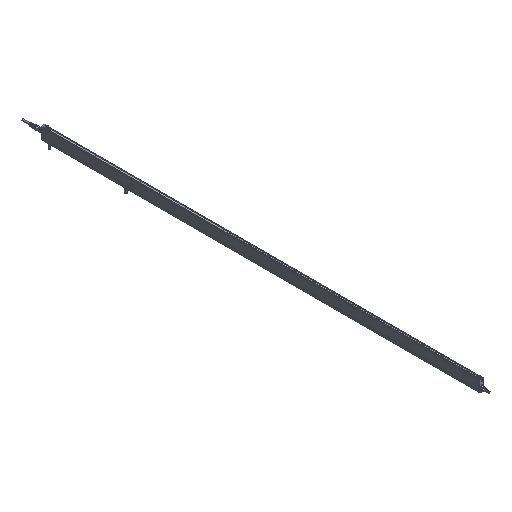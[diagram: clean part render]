
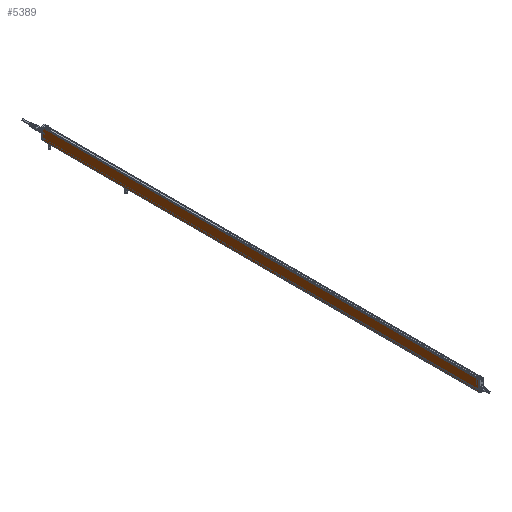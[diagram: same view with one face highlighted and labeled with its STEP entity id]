
A CAD part, isometric view. The second image highlights one B-rep face of the part: STEP entity #5389.
In plain terms, the highlighted planar face has unit normal (-1, 0, 0).
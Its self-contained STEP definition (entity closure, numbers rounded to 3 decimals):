
#672 = LINE ( 'NONE', #1778, #17649 ) ;
#852 = EDGE_CURVE ( 'NONE', #33494, #21731, #672, .T. ) ;
#903 = LINE ( 'NONE', #22306, #5439 ) ;
#966 = CARTESIAN_POINT ( 'NONE',  ( -9., 1135., 0.5 ) ) ;
#1212 = DIRECTION ( 'NONE',  ( -1., 0., 0. ) ) ;
#1276 = CARTESIAN_POINT ( 'NONE',  ( -9., 1135., 28.5 ) ) ;
#1778 = CARTESIAN_POINT ( 'NONE',  ( -9., 1135., 28.5 ) ) ;
#2566 = EDGE_CURVE ( 'NONE', #21731, #10320, #903, .T. ) ;
#4098 = DIRECTION ( 'NONE',  ( 0., -1., 0. ) ) ;
#4382 = ORIENTED_EDGE ( 'NONE', *, *, #14970, .T. ) ;
#4669 = LINE ( 'NONE', #1276, #22027 ) ;
#5389 = ADVANCED_FACE ( 'NONE', ( #11962 ), #21038, .T. ) ;
#5439 = VECTOR ( 'NONE', #30254, 1000. ) ;
#5475 = AXIS2_PLACEMENT_3D ( 'NONE', #22010, #1212, #16706 ) ;
#6096 = LINE ( 'NONE', #966, #16054 ) ;
#6697 = DIRECTION ( 'NONE',  ( 0., 0., -1. ) ) ;
#8186 = EDGE_CURVE ( 'NONE', #33494, #24548, #4669, .T. ) ;
#10320 = VERTEX_POINT ( 'NONE', #15864 ) ;
#11962 = FACE_OUTER_BOUND ( 'NONE', #30794, .T. ) ;
#13362 = ORIENTED_EDGE ( 'NONE', *, *, #2566, .F. ) ;
#14970 = EDGE_CURVE ( 'NONE', #24548, #10320, #6096, .T. ) ;
#15864 = CARTESIAN_POINT ( 'NONE',  ( -9., 0., 0.5 ) ) ;
#16054 = VECTOR ( 'NONE', #19341, 1000. ) ;
#16706 = DIRECTION ( 'NONE',  ( 0., -1., 0. ) ) ;
#17649 = VECTOR ( 'NONE', #4098, 1000. ) ;
#19341 = DIRECTION ( 'NONE',  ( 0., -1., 0. ) ) ;
#21038 = PLANE ( 'NONE',  #5475 ) ;
#21731 = VERTEX_POINT ( 'NONE', #33390 ) ;
#22010 = CARTESIAN_POINT ( 'NONE',  ( -9., 1135., 28.5 ) ) ;
#22027 = VECTOR ( 'NONE', #6697, 1000. ) ;
#22306 = CARTESIAN_POINT ( 'NONE',  ( -9., 0., 28.5 ) ) ;
#22799 = CARTESIAN_POINT ( 'NONE',  ( -9., 1135., 28.5 ) ) ;
#24548 = VERTEX_POINT ( 'NONE', #27392 ) ;
#27392 = CARTESIAN_POINT ( 'NONE',  ( -9., 1135., 0.5 ) ) ;
#30254 = DIRECTION ( 'NONE',  ( 0., 0., -1. ) ) ;
#30794 = EDGE_LOOP ( 'NONE', ( #13362, #30826, #32906, #4382 ) ) ;
#30826 = ORIENTED_EDGE ( 'NONE', *, *, #852, .F. ) ;
#32906 = ORIENTED_EDGE ( 'NONE', *, *, #8186, .T. ) ;
#33390 = CARTESIAN_POINT ( 'NONE',  ( -9., 0., 28.5 ) ) ;
#33494 = VERTEX_POINT ( 'NONE', #22799 ) ;
